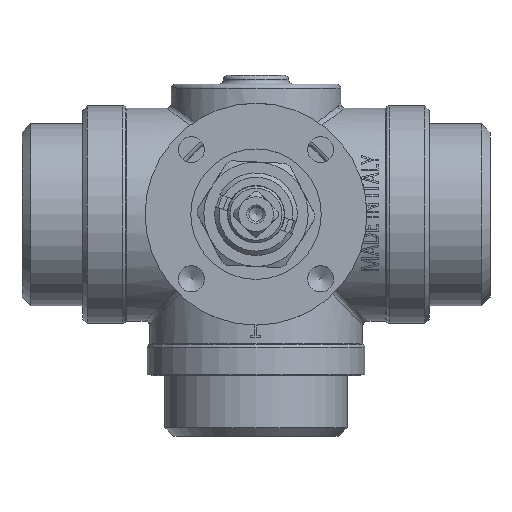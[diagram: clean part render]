
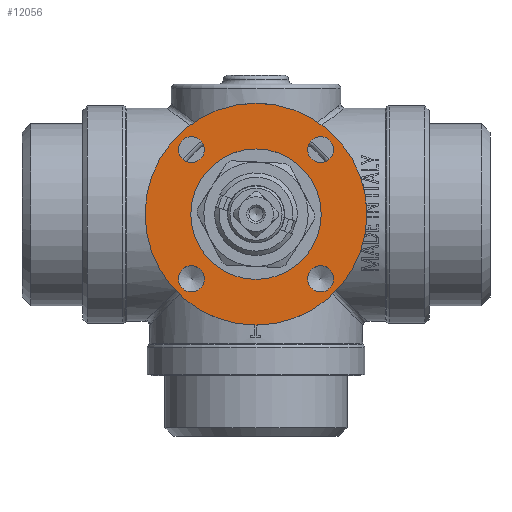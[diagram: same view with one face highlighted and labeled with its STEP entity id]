
A CAD part, top view. The second image highlights one B-rep face of the part: STEP entity #12056.
In plain terms, the highlighted planar face has unit normal (0, 0, 1).
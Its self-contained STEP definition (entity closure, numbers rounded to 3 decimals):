
#525=FACE_BOUND('',#1910,.T.);
#526=FACE_BOUND('',#1911,.T.);
#527=FACE_BOUND('',#1912,.T.);
#528=FACE_BOUND('',#1913,.T.);
#529=FACE_BOUND('',#1914,.T.);
#661=PLANE('',#12882);
#1209=FACE_OUTER_BOUND('',#1909,.T.);
#1909=EDGE_LOOP('',(#8005));
#1910=EDGE_LOOP('',(#8006));
#1911=EDGE_LOOP('',(#8007));
#1912=EDGE_LOOP('',(#8008));
#1913=EDGE_LOOP('',(#8009));
#1914=EDGE_LOOP('',(#8010));
#2701=CIRCLE('',#12841,3.);
#2703=CIRCLE('',#12845,3.);
#2705=CIRCLE('',#12849,3.);
#2707=CIRCLE('',#12853,3.);
#2719=CIRCLE('',#12871,25.5);
#2725=CIRCLE('',#12883,15.);
#4826=VERTEX_POINT('',#17537);
#4829=VERTEX_POINT('',#17546);
#4832=VERTEX_POINT('',#17555);
#4835=VERTEX_POINT('',#17564);
#4844=VERTEX_POINT('',#17598);
#4849=VERTEX_POINT('',#17620);
#6031=EDGE_CURVE('',#4826,#4826,#2701,.T.);
#6035=EDGE_CURVE('',#4829,#4829,#2703,.T.);
#6039=EDGE_CURVE('',#4832,#4832,#2705,.T.);
#6043=EDGE_CURVE('',#4835,#4835,#2707,.T.);
#6062=EDGE_CURVE('',#4844,#4844,#2719,.T.);
#6073=EDGE_CURVE('',#4849,#4849,#2725,.T.);
#8005=ORIENTED_EDGE('',*,*,#6062,.T.);
#8006=ORIENTED_EDGE('',*,*,#6031,.T.);
#8007=ORIENTED_EDGE('',*,*,#6035,.T.);
#8008=ORIENTED_EDGE('',*,*,#6039,.T.);
#8009=ORIENTED_EDGE('',*,*,#6043,.T.);
#8010=ORIENTED_EDGE('',*,*,#6073,.F.);
#12056=ADVANCED_FACE('',(#1209,#525,#526,#527,#528,#529),#661,.T.);
#12841=AXIS2_PLACEMENT_3D('',#17538,#14262,#14263);
#12845=AXIS2_PLACEMENT_3D('',#17547,#14272,#14273);
#12849=AXIS2_PLACEMENT_3D('',#17556,#14282,#14283);
#12853=AXIS2_PLACEMENT_3D('',#17565,#14292,#14293);
#12871=AXIS2_PLACEMENT_3D('',#17599,#14335,#14336);
#12882=AXIS2_PLACEMENT_3D('',#17619,#14362,#14363);
#12883=AXIS2_PLACEMENT_3D('',#17621,#14364,#14365);
#14262=DIRECTION('center_axis',(0.,0.,
-1.));
#14263=DIRECTION('ref_axis',(0.,-1.,0.));
#14272=DIRECTION('center_axis',(0.,0.,
-1.));
#14273=DIRECTION('ref_axis',(0.,-1.,0.));
#14282=DIRECTION('center_axis',(0.,0.,
-1.));
#14283=DIRECTION('ref_axis',(0.,-1.,0.));
#14292=DIRECTION('center_axis',(0.,0.,
-1.));
#14293=DIRECTION('ref_axis',(0.,-1.,0.));
#14335=DIRECTION('center_axis',(0.,0.,
1.));
#14336=DIRECTION('ref_axis',(0.,-1.,0.));
#14362=DIRECTION('center_axis',(0.,0.,
1.));
#14363=DIRECTION('ref_axis',(-1.,0.,0.));
#14364=DIRECTION('center_axis',(0.,0.,
1.));
#14365=DIRECTION('ref_axis',(0.,-1.,0.));
#17537=CARTESIAN_POINT('',(-14.849,17.849,61.275));
#17538=CARTESIAN_POINT('Origin',(-14.849,14.849,61.275));
#17546=CARTESIAN_POINT('',(14.849,-11.849,61.275));
#17547=CARTESIAN_POINT('Origin',(14.849,-14.849,61.275));
#17555=CARTESIAN_POINT('',(-14.849,-11.849,61.275));
#17556=CARTESIAN_POINT('Origin',(-14.849,-14.849,61.275));
#17564=CARTESIAN_POINT('',(14.849,17.849,61.275));
#17565=CARTESIAN_POINT('Origin',(14.849,14.849,61.275));
#17598=CARTESIAN_POINT('',(0.,-25.5,61.275));
#17599=CARTESIAN_POINT('Origin',(0.,0.,
61.275));
#17619=CARTESIAN_POINT('Origin',(0.,15.,61.275));
#17620=CARTESIAN_POINT('',(0.,-15.,61.275));
#17621=CARTESIAN_POINT('Origin',(0.,0.,
61.275));
